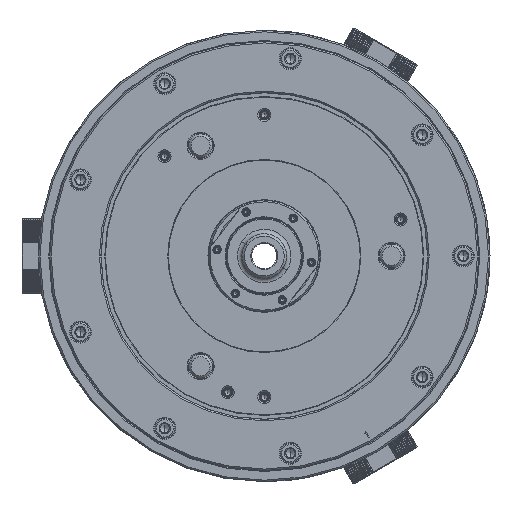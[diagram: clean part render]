
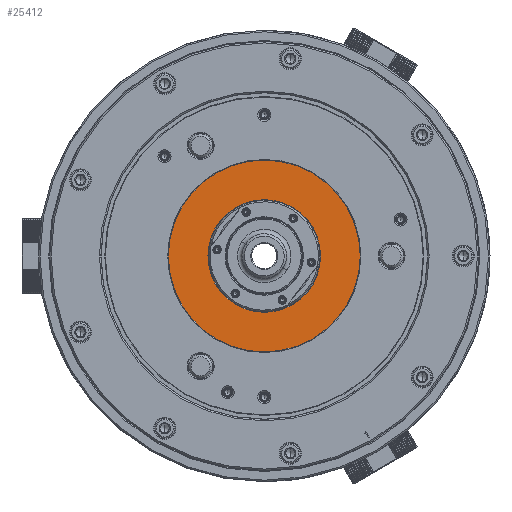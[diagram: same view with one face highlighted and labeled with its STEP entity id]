
A CAD part, left-side view. The second image highlights one B-rep face of the part: STEP entity #25412.
In plain terms, the highlighted planar face has unit normal (-1, 0, 0) as drawn and (0, 0, -1) by its records, which use the part's own axes.
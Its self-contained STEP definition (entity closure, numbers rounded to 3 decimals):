
#1055 = DIRECTION ( 'NONE',  ( 1., 0., 0. ) ) ;
#1312 = CARTESIAN_POINT ( 'NONE',  ( 0., 0., -126.8 ) ) ;
#1561 = CARTESIAN_POINT ( 'NONE',  ( 37.9, 0., -126.8 ) ) ;
#2895 = CARTESIAN_POINT ( 'NONE',  ( 0., 0., -126.8 ) ) ;
#4275 = DIRECTION ( 'NONE',  ( 0., 0., 1. ) ) ;
#9729 = AXIS2_PLACEMENT_3D ( 'NONE', #62329, #48131, #118294 ) ;
#9902 = CIRCLE ( 'NONE', #97751, 64.616 ) ;
#10076 = CIRCLE ( 'NONE', #140257, 37.9 ) ;
#11063 = AXIS2_PLACEMENT_3D ( 'NONE', #31848, #4275, #62135 ) ;
#15045 = VERTEX_POINT ( 'NONE', #1561 ) ;
#15555 = VERTEX_POINT ( 'NONE', #160610 ) ;
#19527 = ORIENTED_EDGE ( 'NONE', *, *, #147254, .F. ) ;
#25412 = ADVANCED_FACE ( 'NONE', ( #73593, #134188 ), #146537, .F. ) ;
#31848 = CARTESIAN_POINT ( 'NONE',  ( 0., -65., -126.8 ) ) ;
#35718 = EDGE_CURVE ( 'NONE', #15045, #117911, #10076, .T. ) ;
#47720 = DIRECTION ( 'NONE',  ( 1., 0., 0. ) ) ;
#48131 = DIRECTION ( 'NONE',  ( 0., 0., 1. ) ) ;
#55310 = CIRCLE ( 'NONE', #97639, 37.9 ) ;
#62135 = DIRECTION ( 'NONE',  ( 1., 0., 0. ) ) ;
#62329 = CARTESIAN_POINT ( 'NONE',  ( 0., 0., -126.8 ) ) ;
#70657 = CARTESIAN_POINT ( 'NONE',  ( -37.9, 0., -126.8 ) ) ;
#73593 = FACE_BOUND ( 'NONE', #79819, .T. ) ;
#79819 = EDGE_LOOP ( 'NONE', ( #147496, #142882 ) ) ;
#84231 = DIRECTION ( 'NONE',  ( 1., 0., 0. ) ) ;
#97639 = AXIS2_PLACEMENT_3D ( 'NONE', #1312, #116964, #47720 ) ;
#97751 = AXIS2_PLACEMENT_3D ( 'NONE', #114534, #172355, #84231 ) ;
#103707 = ORIENTED_EDGE ( 'NONE', *, *, #133756, .F. ) ;
#112707 = CIRCLE ( 'NONE', #9729, 64.616 ) ;
#114534 = CARTESIAN_POINT ( 'NONE',  ( 0., 0., -126.8 ) ) ;
#115940 = EDGE_CURVE ( 'NONE', #117911, #15045, #55310, .T. ) ;
#116964 = DIRECTION ( 'NONE',  ( 0., 0., 1. ) ) ;
#117911 = VERTEX_POINT ( 'NONE', #70657 ) ;
#118294 = DIRECTION ( 'NONE',  ( 1., 0., 0. ) ) ;
#118564 = DIRECTION ( 'NONE',  ( 0., 0., 1. ) ) ;
#126754 = EDGE_LOOP ( 'NONE', ( #19527, #103707 ) ) ;
#133756 = EDGE_CURVE ( 'NONE', #169224, #15555, #9902, .T. ) ;
#134188 = FACE_OUTER_BOUND ( 'NONE', #126754, .T. ) ;
#140257 = AXIS2_PLACEMENT_3D ( 'NONE', #2895, #118564, #1055 ) ;
#142882 = ORIENTED_EDGE ( 'NONE', *, *, #35718, .T. ) ;
#146537 = PLANE ( 'NONE',  #11063 ) ;
#147254 = EDGE_CURVE ( 'NONE', #15555, #169224, #112707, .T. ) ;
#147496 = ORIENTED_EDGE ( 'NONE', *, *, #115940, .T. ) ;
#160610 = CARTESIAN_POINT ( 'NONE',  ( -64.616, 0., -126.8 ) ) ;
#169224 = VERTEX_POINT ( 'NONE', #184726 ) ;
#172355 = DIRECTION ( 'NONE',  ( 0., 0., 1. ) ) ;
#184726 = CARTESIAN_POINT ( 'NONE',  ( 64.616, 0., -126.8 ) ) ;
